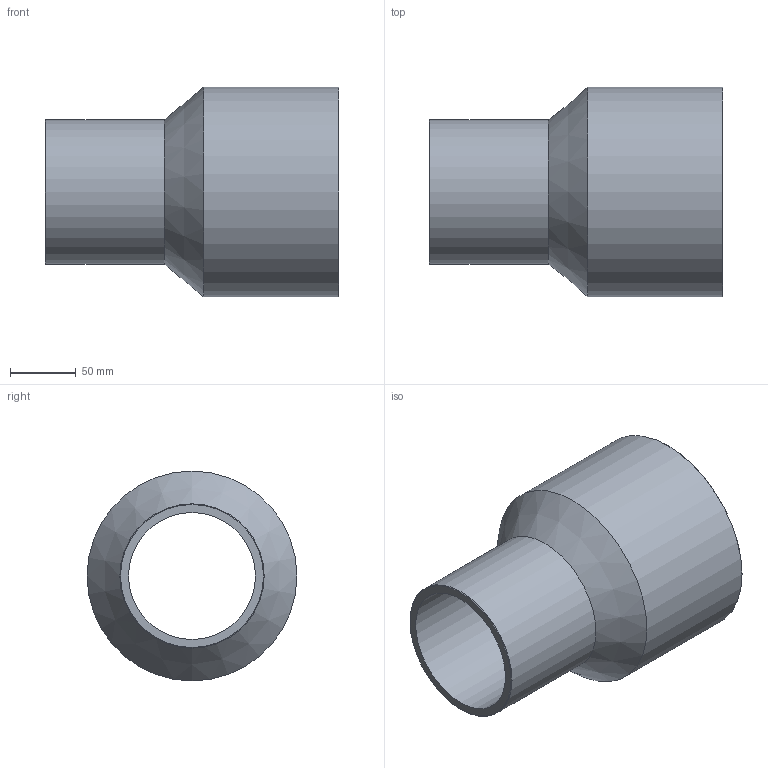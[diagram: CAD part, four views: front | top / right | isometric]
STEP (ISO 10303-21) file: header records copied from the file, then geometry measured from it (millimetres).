
FILE_DESCRIPTION(/* description */ ('Unknown'),/* implementation_level */ '2;1');
FILE_NAME(/* name */ 'RP160110B',/* time_stamp */ '2021-09-17T11:10:47+02:00',/* author */ ('Unknown'),/* organization */ ('Unknown'),/* preprocessor_version */ 'ST-DEVELOPER v16.7',/* originating_system */ 'Solid Edge',/* authorisation */ 'Unknown');
FILE_SCHEMA (('AUTOMOTIVE_DESIGN {1 0 10303 214 3 1 1}'));
Length unit declared in the file: millimetre
Products named in the file (1): RP160110B
Bounding box: 224 x 160 x 160 mm (x, y, z)
Volume: 820556.5 mm3; surface area: 192429.1 mm2
Topology: 1 solids, 1 shells, 10 faces, 19 edges, 11 vertices
Faces by surface type: cylinder 4, cone 4, plane 2
Full cylindrical faces by diameter (mm): 96.8 x1, 110 x1, 141 x1, 160 x1
Entity records: 238 total; most frequent: DIRECTION 42, CARTESIAN_POINT 31, AXIS2_PLACEMENT_3D 21, ORIENTED_EDGE 20, EDGE_LOOP 20, FACE_BOUND 20, EDGE_CURVE 10, VERTEX_POINT 10
